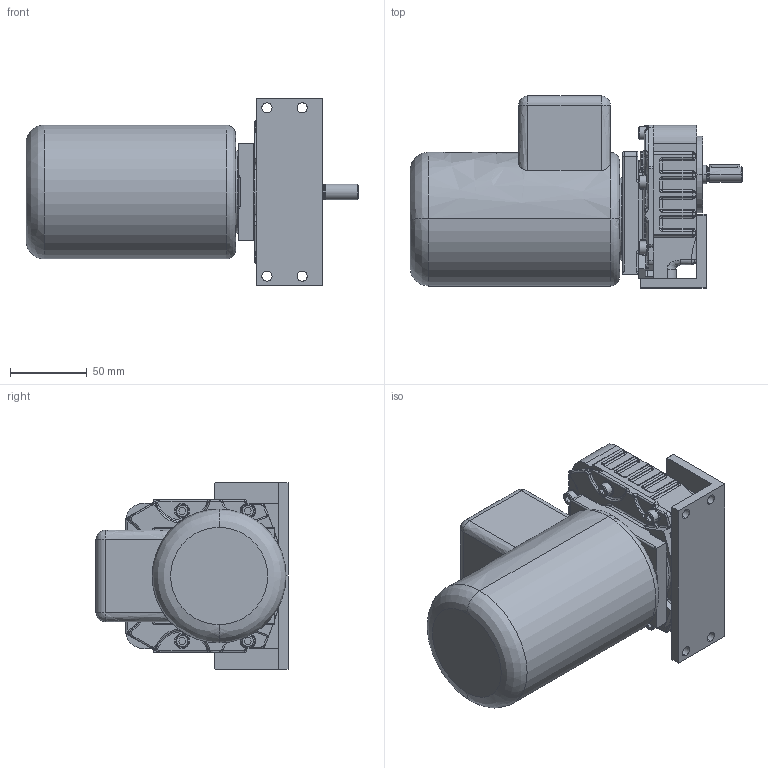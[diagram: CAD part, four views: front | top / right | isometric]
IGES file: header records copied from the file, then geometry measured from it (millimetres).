
Start section: Elysium IGES Interface
Global section: file name: G:\000_Arbeit\000_CAD\122_G2_Serie\06_2D_3D_extern_intern\02_2D_3D_intern\G21_BF_B3_20W_30W_Motor.igs; native system: CoCreate Modeling 16.00B  02-Dec-2008; preprocessor: CoCreate IGES_3D V2.2; author: Unknown; organization: Unknown; date: 20090225.133632; units: millimetre
Bounding box: 217 x 125.5 x 122 mm (x, y, z)
Volume: 1391490.1 mm3; surface area: 123044.3 mm2
Topology: 2 solids, 2 shells, 711 faces, 1716 edges, 977 vertices
Faces by surface type: bspline 711
